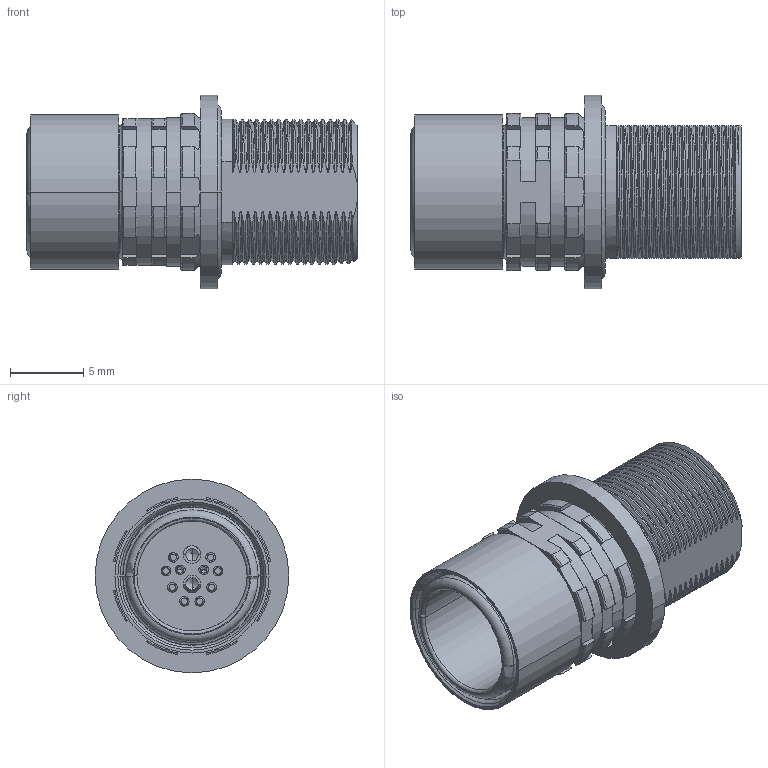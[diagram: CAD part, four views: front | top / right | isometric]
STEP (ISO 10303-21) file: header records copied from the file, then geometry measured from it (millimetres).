
FILE_DESCRIPTION((''),'2;1');
FILE_NAME('00160623--_ASM','2020-10-29T09:48:16',('EUnterhaslberger'),(''),'CREO PARAMETRIC BY PTC INC, 2018300','CREO PARAMETRIC BY PTC INC, 2018300','');
FILE_SCHEMA(('AP242_MANAGED_MODEL_BASED_3D_ENGINEERING_MIM_LF { 1 0 10303 442 1 1 4 }'));
Products named in the file (5): TEMP_SW_STEP_MONOBLOCK_1_1; TEMP_SW_STEP_MONOBLOCK_1_2; TEMP_SW_STEP_MONOBLOCK_1_3; TEMP_SW_STEP_MONOBLOCK_1_ASM; 00160623--_ASM
Assembly tree (4 placements, depth 3):
  00160623--_ASM
    TEMP_SW_STEP_MONOBLOCK_1_ASM
      TEMP_SW_STEP_MONOBLOCK_1_1
      TEMP_SW_STEP_MONOBLOCK_1_2
      TEMP_SW_STEP_MONOBLOCK_1_3
Bounding box: 22.5 x 13.2 x 13.2 mm (x, y, z)
Volume: 1100.7 mm3; surface area: 2404.7 mm2
Topology: 3 solids, 3 shells, 817 faces, 2195 edges, 1432 vertices
Faces by surface type: cylinder 267, plane 259, bspline 130, cone 83, torus 77, sphere 1
Entity records: 68880 total; most frequent: CARTESIAN_POINT 43571, ORIENTED_EDGE 4374, DIRECTION 3665, EDGE_CURVE 2187, VERTEX_POINT 1432, AXIS2_PLACEMENT_3D 1429, EDGE_LOOP 879, FACE_OUTER_BOUND 817
